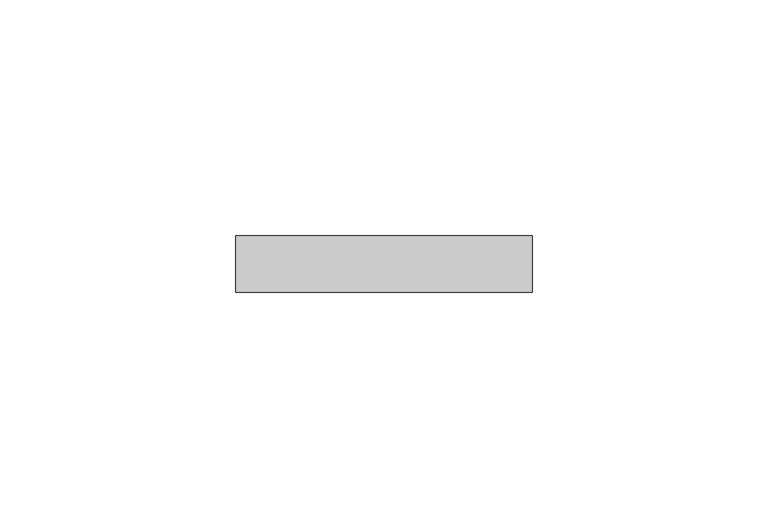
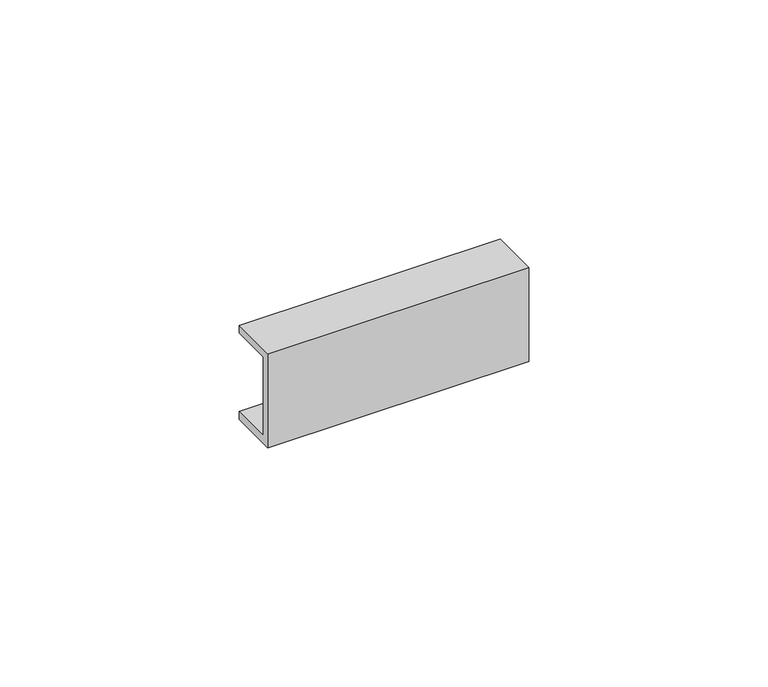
"""IFC4 building model written with IfcOpenShell, lengths in millimetres: proxy geometry, Соединитель_КМС : Соединитель КМС 20х10."""

from ifc_helpers import new_model, si_unit, frame, origin, place, context, project, spatial, polyline, outline, extrude, source, transform, mapped, element, save


def generic_models_8e5abc58(model_context):
    return source(origin(), model_context, "Body", "SweptSolid", [
        extrude(outline(polyline([(-12.0, 42.0), (0.0, 42.0), (0.0, 40.0), (-10.0, 40.0), (-10.0, 20.0), (0.0, 20.0), (0.0, 18.0), (-12.0, 18.0), (-12.0, 42.0)])), frame((0.0, 0.0, 0.0), z_axis=(1.0, 0.0, 0.0), x_axis=(0.0, 1.0, 0.0)), (0.0, 0.0, 1.0), 63.0),
    ])


if __name__ == "__main__":
    model = new_model("IFC4")
    model_context = context("Model", 3, world=origin())
    ifc_project = project(units=[si_unit("LENGTHUNIT", "METRE", prefix="MILLI")], contexts=[model_context])
    site = spatial("IfcSite", under=ifc_project)
    building = spatial("IfcBuilding", under=site)
    placement = place(None, origin())
    generic_models_shape = generic_models_8e5abc58(model_context)
    element("IfcBuildingElementProxy", 1, Name="Соединитель_КМС : Соединитель КМС 20х10", ObjectType="Соединитель_КМС : Соединитель КМС 20х10", at=placement, inside=building, context=model_context, shape_type="MappedRepresentation", body=[
        mapped(generic_models_shape, transform((0.0, 0.0, 0.0), x_axis=(1.0, 0.0, 0.0), y_axis=(0.0, 1.0, 0.0), z_axis=(0.0, 0.0, 1.0))),
    ])
    save(model, "model.ifc")
